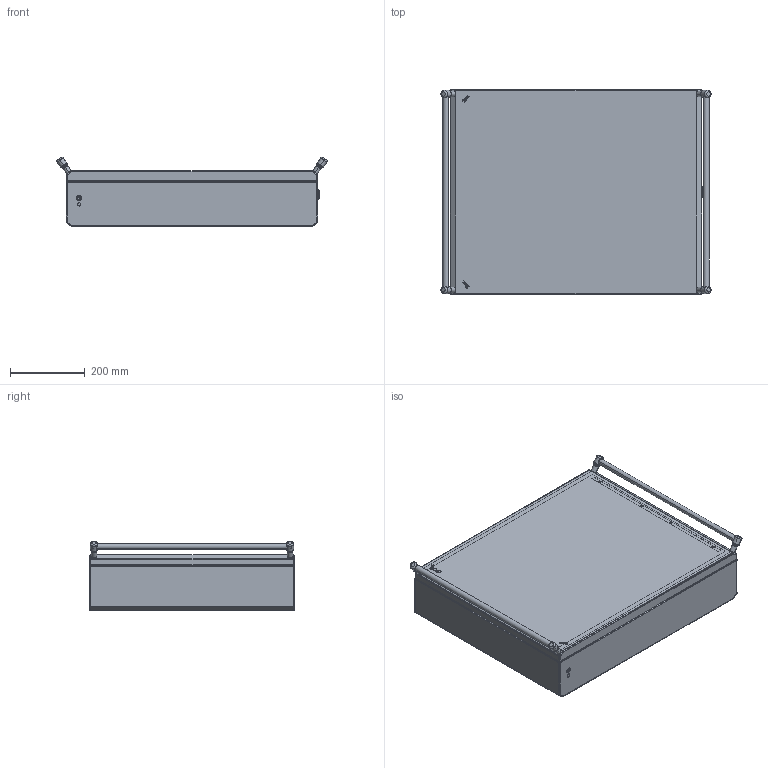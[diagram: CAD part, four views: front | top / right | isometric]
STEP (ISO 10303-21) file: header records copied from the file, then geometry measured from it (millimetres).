
FILE_DESCRIPTION (( 'STEP AP203' ), '1' );
FILE_NAME ('BK75AM-COM.step', '2023-09-19T13:20:14', ( '' ), ( '' ), 'SwSTEP 2.0', 'SolidWorks 2021', '' );
FILE_SCHEMA (( 'CONFIG_CONTROL_DESIGN' ));
Length unit declared in the file: millimetre
Products named in the file (21): PRM615TL316; Parte7^ SG215S_Assiemi Box serie BK33-BK75M; Staffa Serraggio Box BK_SSBKH550; LOGO_ILINOX; OLD-ADMT_ADMT; Porte Box BK33-BK75M_POBK75M; BK75AM-COM; Fasciame FABK33- FABK75M_FABK75; 1000-u183^ SG215S_Assiemi Box serie BK33-BK75M;  SG215S^Assiemi Box serie BK33-BK75M_Chiusura_BASSO; 1000-03-PG^1000-u183_ SG215S_Assiemi Box serie BK33-BK75M; PRFABK75; Scarpetta Box serie BK; Tubo maniglia Box BK H300-H550_TMBK550; Guarnizione Schiumata 13x6.5_GBK75-GBK75M; 1000-24^1000-u183_ SG215S_Assiemi Box serie BK33-BK75M; 1000-156-01^1000-u183_ SG215S_Assiemi Box serie BK33-BK75M; 1000-02-RA_1^ 1000-U134_ SG215S_Assiemi Box serie BK33-BK75M; 1000-277-01PI^1000-u183_ SG215S_Assiemi Box serie BK33-BK75M; 1000-101-GPF_GPD_1^ 1000-U134_ SG215S_Assiemi Box serie BK33-BK75M;  1000-U134^ SG215S_Assiemi Box serie BK33-BK75M
Assembly tree (26 placements, depth 4):
  BK75AM-COM
    Fasciame FABK33- FABK75M_FABK75
    Porte Box BK33-BK75M_POBK75M
    Guarnizione Schiumata 13x6.5_GBK75-GBK75M
    Staffa Serraggio Box BK_SSBKH550
    Scarpetta Box serie BK
    Tubo maniglia Box BK H300-H550_TMBK550  x2
    PRFABK75
     SG215S^Assiemi Box serie BK33-BK75M_Chiusura_BASSO
       1000-U134^ SG215S_Assiemi Box serie BK33-BK75M
        1000-101-GPF_GPD_1^ 1000-U134_ SG215S_Assiemi Box serie BK33-BK75M
        1000-02-RA_1^ 1000-U134_ SG215S_Assiemi Box serie BK33-BK75M
      1000-u183^ SG215S_Assiemi Box serie BK33-BK75M
        1000-156-01^1000-u183_ SG215S_Assiemi Box serie BK33-BK75M
        1000-03-PG^1000-u183_ SG215S_Assiemi Box serie BK33-BK75M
        1000-24^1000-u183_ SG215S_Assiemi Box serie BK33-BK75M
        1000-277-01PI^1000-u183_ SG215S_Assiemi Box serie BK33-BK75M
      Parte7^ SG215S_Assiemi Box serie BK33-BK75M
    OLD-ADMT_ADMT  x2
    LOGO_ILINOX  x2
    PRM615TL316  x4
Bounding box: 724.31 x 550 x 186.07 mm (x, y, z)
Volume: 2302865.4 mm3; surface area: 2655027.5 mm2
Topology: 48 solids, 55 shells, 1303 faces, 3033 edges, 1846 vertices
Faces by surface type: plane 622, cylinder 464, cone 72, torus 64, sphere 50, bspline 31
Entity records: 35630 total; most frequent: CARTESIAN_POINT 8429, DIRECTION 5471, ORIENTED_EDGE 4943, EDGE_CURVE 2475, AXIS2_PLACEMENT_3D 2078, VERTEX_POINT 1528, LINE 1315, VECTOR 1315
